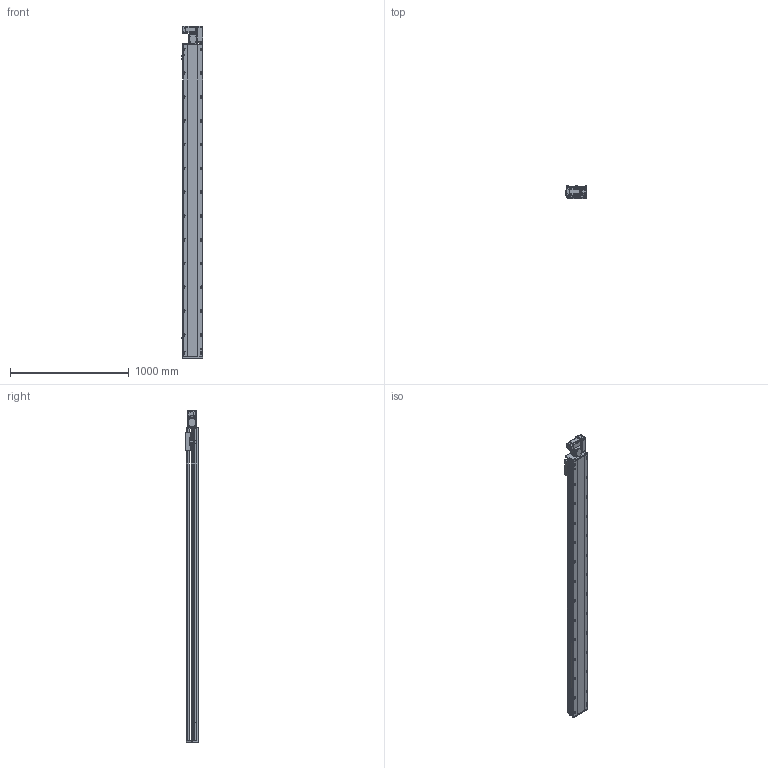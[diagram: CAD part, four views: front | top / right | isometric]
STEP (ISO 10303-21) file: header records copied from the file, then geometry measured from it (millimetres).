
FILE_DESCRIPTION (( 'STEP AP214' ), '1' );
FILE_NAME ('RTB17S-XX-2350-R-M40-C4.STEP', '2025-12-11T07:50:01', ( '' ), ( '' ), 'SwSTEP 2.0', 'SolidWorks 2018', '' );
FILE_SCHEMA (( 'AUTOMOTIVE_DESIGN' ));
Length unit declared in the file: millimetre
Products named in the file (14): RTB14-L-018P^RTB17S-R-々湍釱蚾饜-400W_RTB17S-XX-XX-R-M40-C4; RTB17S-R-々湍釱蚾饜-400W^RTB17S-XX-XX-R-M40-C4; 400W侜督萇儂^RTB17S-XX-XX-R-M40-C4; RTB17S-XX-2350-R-M40-C4; RTB17S-L-007奻裔^RTB17S-XX-XX-R-M40-C4; OMRON EE-SX672 传感器^RTB17S-XX-XX-R-M40-C4; RTB14-L-005P--轴承塑胶压盖^RTB17S-R-皮带座装配-400W_RTB17S-XX-XX-R-M40-C4; RTB17S-L-014-T20--々湍釱^RTB17S-R-々湍釱蚾饜-400W_RTB17S-XX-XX-R-M40-C4; RTB17S-L-004佪裝蹟譫蟀諉釱^RTB17S-XX-XX-R-M40-C4; RTH13-BL-012覜茼え俋离^RTB17S-XX-XX-R-M40-C4; RTB14-L-017P^RTB17S-R-々湍釱蚾饜-400W_RTB17S-XX-XX-R-M40-C4; RTB17S-L-001耜醱啣^RTB17S-XX-XX-R-M40-C4; RTB17-R-011菁釱^RTB17S-XX-XX-R-M40-C4; RTB14-L-008-M20--萇儂啣^RTB17S-R-々湍釱蚾饜-400W_RTB17S-XX-XX-R-M40-C4
Assembly tree (16 placements, depth 3):
  RTB17S-XX-2350-R-M40-C4
    RTB17-R-011菁釱^RTB17S-XX-XX-R-M40-C4
    RTB17S-L-007奻裔^RTB17S-XX-XX-R-M40-C4
    OMRON EE-SX672 传感器^RTB17S-XX-XX-R-M40-C4  x3
    RTB17S-L-001耜醱啣^RTB17S-XX-XX-R-M40-C4
    400W侜督萇儂^RTB17S-XX-XX-R-M40-C4
    RTB17S-L-004佪裝蹟譫蟀諉釱^RTB17S-XX-XX-R-M40-C4
    RTH13-BL-012覜茼え俋离^RTB17S-XX-XX-R-M40-C4
    RTB17S-R-々湍釱蚾饜-400W^RTB17S-XX-XX-R-M40-C4
      RTB17S-L-014-T20--々湍釱^RTB17S-R-々湍釱蚾饜-400W_RTB17S-XX-XX-R-M40-C4
      RTB14-L-005P--轴承塑胶压盖^RTB17S-R-皮带座装配-400W_RTB17S-XX-XX-R-M40-C4
      RTB14-L-008-M20--萇儂啣^RTB17S-R-々湍釱蚾饜-400W_RTB17S-XX-XX-R-M40-C4
      RTB14-L-017P^RTB17S-R-々湍釱蚾饜-400W_RTB17S-XX-XX-R-M40-C4  x2
      RTB14-L-018P^RTB17S-R-々湍釱蚾饜-400W_RTB17S-XX-XX-R-M40-C4
Bounding box: 183.5 x 108 x 2791 mm (x, y, z)
Volume: 23383487.2 mm3; surface area: 2698608.2 mm2
Topology: 15 solids, 15 shells, 2317 faces, 6465 edges, 4221 vertices
Faces by surface type: plane 1082, cylinder 787, bspline 301, cone 139, torus 8
Entity records: 68009 total; most frequent: CARTESIAN_POINT 19270, ORIENTED_EDGE 9774, DIRECTION 9026, EDGE_CURVE 4887, VERTEX_POINT 3209, AXIS2_PLACEMENT_3D 3139, LINE 2748, VECTOR 2748
